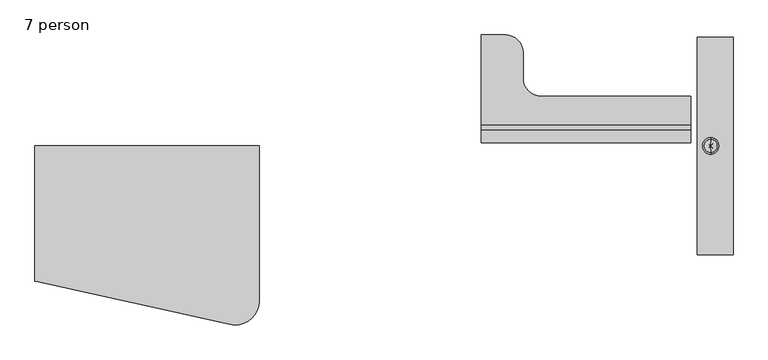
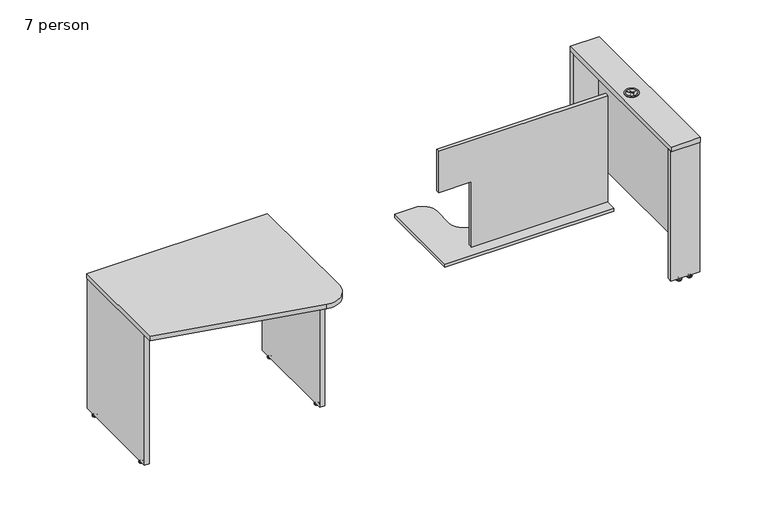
"""IFC4 building model written with IfcOpenShell, lengths in millimetres: furniture geometry, Nova Solutions - Collaboration Table - Keystone_6-7 person : 7 person."""

from ifc_helpers import new_model, si_unit, point, frame, frame_2d, origin, place, context, project, spatial, polyline, circle_curve, ellipse_curve, trimmed, segment, composite_curve, outline, extrude, source, transform, mapped, element, save
from ifc_brep_helpers import plane_surface, cylinder_surface, revolved_surface, advanced_brep


def furniture_7_person_a24fa515(model_context):
    return source(origin(), model_context, "Body", "SolidModel", [
        advanced_brep(
        [(-1411.6656506, -474.3309375, 11.1125), (-1404.988, -474.3309375, 11.1125), (-1398.3103494, -474.3309375, 11.1125), (-1411.6656506, -474.3309375, 9.525), (-1398.3103494, -474.3309375, 9.525), (-1416.8735135, -474.3309375, 4.7748687), (-1393.1024865, -474.3309375, 4.7748687), (-1417.7346506, -474.3309375, 3.989419), (-1392.2413494, -474.3309375, 3.989419), (-1417.7346506, -474.3309375, 3.175), (-1392.2413494, -474.3309375, 3.175), (-1416.8839119, -474.3309375, 0.0), (-1393.0920881, -474.3309375, 0.0), (-1404.988, -474.3309375, 0.0)],
        [
            (0, 1),
            (1, 2),
            (2, 0, circle_curve(frame((-1404.988, -474.3309375, 11.1125), z_axis=(0.0, 0.0, 1.0), x_axis=(1.0, 0.0, 0.0)), 6.6776506)),
            (0, 2, circle_curve(frame((-1404.988, -474.3309375, 11.1125), z_axis=(0.0, 0.0, 1.0), x_axis=(1.0, 0.0, 0.0)), 6.6776506)),
            (3, 0),
            (2, 4),
            (4, 3, circle_curve(frame((-1404.988, -474.3309375, 9.525), z_axis=(0.0, 0.0, 1.0), x_axis=(1.0, 0.0, 0.0)), 6.6776506)),
            (3, 4, circle_curve(frame((-1404.988, -474.3309375, 9.525), z_axis=(0.0, 0.0, 1.0), x_axis=(1.0, 0.0, 0.0)), 6.6776506)),
            (5, 3, circle_curve(frame((-1417.9200627, -474.3309375, 11.1521822), z_axis=(0.0, -1.0, 0.0), x_axis=(1.0, 0.0, 0.0)), 6.462615)),
            (4, 6, circle_curve(frame((-1392.0559373, -474.3309375, 11.1521822), z_axis=(0.0, -1.0, 0.0), x_axis=(-1.0, 0.0, 0.0)), 6.462615)),
            (6, 5, circle_curve(frame((-1404.988, -474.3309375, 4.7748687), z_axis=(0.0, 0.0, 1.0), x_axis=(1.0, 0.0, 0.0)), 11.8855135)),
            (5, 6, circle_curve(frame((-1404.988, -474.3309375, 4.7748687), z_axis=(0.0, 0.0, 1.0), x_axis=(1.0, 0.0, 0.0)), 11.8855135)),
            (7, 5, circle_curve(frame((-1416.7004632, -474.3309375, 3.7203591), z_axis=(0.0, 1.0, 0.0), x_axis=(1.0, 0.0, 0.0)), 1.0686145)),
            (6, 8, circle_curve(frame((-1393.2755368, -474.3309375, 3.7203591), z_axis=(0.0, 1.0, 0.0), x_axis=(-1.0, 0.0, 0.0)), 1.0686145)),
            (8, 7, circle_curve(frame((-1404.988, -474.3309375, 3.989419), z_axis=(0.0, 0.0, 1.0), x_axis=(1.0, 0.0, 0.0)), 12.7466506)),
            (7, 8, circle_curve(frame((-1404.988, -474.3309375, 3.989419), z_axis=(0.0, 0.0, 1.0), x_axis=(1.0, 0.0, 0.0)), 12.7466506)),
            (9, 7),
            (8, 10),
            (10, 9, circle_curve(frame((-1404.988, -474.3309375, 3.175), z_axis=(0.0, 0.0, 1.0), x_axis=(1.0, 0.0, 0.0)), 12.7466506)),
            (9, 10, circle_curve(frame((-1404.988, -474.3309375, 3.175), z_axis=(0.0, 0.0, 1.0), x_axis=(1.0, 0.0, 0.0)), 12.7466506)),
            (11, 9),
            (10, 12),
            (12, 11, circle_curve(frame((-1404.988, -474.3309375, 0.0), z_axis=(0.0, 0.0, 1.0), x_axis=(1.0, 0.0, 0.0)), 11.8959119)),
            (11, 12, circle_curve(frame((-1404.988, -474.3309375, 0.0), z_axis=(0.0, 0.0, 1.0), x_axis=(1.0, 0.0, 0.0)), 11.8959119)),
            (13, 11),
            (12, 13),
        ],
        [
            plane_surface(frame((-1404.988, -474.3309375, 11.1125), z_axis=(0.0, 0.0, 1.0), x_axis=(1.0, 0.0, 0.0))),
            cylinder_surface(frame((-1404.988, -474.3309375, 43.2095994), z_axis=(0.0, 0.0, -1.0), x_axis=(1.0, 0.0, 0.0)), 6.6776506),
            revolved_surface(trimmed(ellipse_curve(frame((-1392.0559373, -474.3309375, 11.1521822), z_axis=(0.0, -1.0, 0.0), x_axis=(-1.0, 0.0, 0.0)), 6.462615, 6.462615), [point((-1398.3103494, -474.3309375, 9.525))], [point((-1393.1024865, -474.3309375, 4.7748687))], True, "CARTESIAN"), (-1404.988, -474.3309375, 43.2095994), (0.0, 0.0, -1.0)),
            revolved_surface(trimmed(ellipse_curve(frame((-1393.2755368, -474.3309375, 3.7203591), z_axis=(0.0, 1.0, 0.0), x_axis=(-1.0, 0.0, 0.0)), 1.0686145, 1.0686145), [point((-1393.1024865, -474.3309375, 4.7748687))], [point((-1392.2413494, -474.3309375, 3.989419))], True, "CARTESIAN"), (-1404.988, -474.3309375, 43.2095994), (0.0, 0.0, -1.0)),
            cylinder_surface(frame((-1404.988, -474.3309375, 43.2095994), z_axis=(0.0, 0.0, -1.0), x_axis=(1.0, 0.0, 0.0)), 12.7466506),
            revolved_surface(polyline([(-1392.2413494, -474.3309375, 3.175), (-1393.0920881, -474.3309375, 0.0)]), (-1404.988, -474.3309375, 43.2095994), (0.0, 0.0, -1.0)),
            plane_surface(frame((-1404.988, -474.3309375, 0.0), z_axis=(0.0, 0.0, -1.0), x_axis=(1.0, 0.0, 0.0))),
        ],
        [
            (0, [[1, 2, 3]]),
            (0, [[-2, -1, 4]]),
            (1, [[5, -3, 6, 7]]),
            (1, [[-6, -4, -5, 8]]),
            (2, [[9, -7, 10, 11]]),
            (2, [[-10, -8, -9, 12]]),
            (3, [[13, -11, 14, 15]]),
            (3, [[-14, -12, -13, 16]]),
            (4, [[17, -15, 18, 19]]),
            (4, [[-18, -16, -17, 20]]),
            (5, [[21, -19, 22, 23]]),
            (5, [[-22, -20, -21, 24]]),
            (6, [[25, -23, 26]]),
            (6, [[-26, -24, -25]]),
        ],
    ),
        advanced_brep(
        [(-1411.6656506, -50.3590625, 11.1125), (-1404.988, -50.3590625, 11.1125), (-1398.3103494, -50.3590625, 11.1125), (-1411.6656506, -50.3590625, 9.525), (-1398.3103494, -50.3590625, 9.525), (-1416.8735135, -50.3590625, 4.7748687), (-1393.1024865, -50.3590625, 4.7748687), (-1417.7346506, -50.3590625, 3.989419), (-1392.2413494, -50.3590625, 3.989419), (-1417.7346506, -50.3590625, 3.175), (-1392.2413494, -50.3590625, 3.175), (-1416.8839119, -50.3590625, 0.0), (-1393.0920881, -50.3590625, 0.0), (-1404.988, -50.3590625, 0.0)],
        [
            (0, 1),
            (1, 2),
            (2, 0, circle_curve(frame((-1404.988, -50.3590625, 11.1125), z_axis=(0.0, 0.0, 1.0), x_axis=(1.0, 0.0, 0.0)), 6.6776506)),
            (0, 2, circle_curve(frame((-1404.988, -50.3590625, 11.1125), z_axis=(0.0, 0.0, 1.0), x_axis=(1.0, 0.0, 0.0)), 6.6776506)),
            (3, 0),
            (2, 4),
            (4, 3, circle_curve(frame((-1404.988, -50.3590625, 9.525), z_axis=(0.0, 0.0, 1.0), x_axis=(1.0, 0.0, 0.0)), 6.6776506)),
            (3, 4, circle_curve(frame((-1404.988, -50.3590625, 9.525), z_axis=(0.0, 0.0, 1.0), x_axis=(1.0, 0.0, 0.0)), 6.6776506)),
            (5, 3, circle_curve(frame((-1417.9200627, -50.3590625, 11.1521822), z_axis=(0.0, -1.0, 0.0), x_axis=(1.0, 0.0, 0.0)), 6.462615)),
            (4, 6, circle_curve(frame((-1392.0559373, -50.3590625, 11.1521822), z_axis=(0.0, -1.0, 0.0), x_axis=(-1.0, 0.0, 0.0)), 6.462615)),
            (6, 5, circle_curve(frame((-1404.988, -50.3590625, 4.7748687), z_axis=(0.0, 0.0, 1.0), x_axis=(1.0, 0.0, 0.0)), 11.8855135)),
            (5, 6, circle_curve(frame((-1404.988, -50.3590625, 4.7748687), z_axis=(0.0, 0.0, 1.0), x_axis=(1.0, 0.0, 0.0)), 11.8855135)),
            (7, 5, circle_curve(frame((-1416.7004632, -50.3590625, 3.7203591), z_axis=(0.0, 1.0, 0.0), x_axis=(1.0, 0.0, 0.0)), 1.0686145)),
            (6, 8, circle_curve(frame((-1393.2755368, -50.3590625, 3.7203591), z_axis=(0.0, 1.0, 0.0), x_axis=(-1.0, 0.0, 0.0)), 1.0686145)),
            (8, 7, circle_curve(frame((-1404.988, -50.3590625, 3.989419), z_axis=(0.0, 0.0, 1.0), x_axis=(1.0, 0.0, 0.0)), 12.7466506)),
            (7, 8, circle_curve(frame((-1404.988, -50.3590625, 3.989419), z_axis=(0.0, 0.0, 1.0), x_axis=(1.0, 0.0, 0.0)), 12.7466506)),
            (9, 7),
            (8, 10),
            (10, 9, circle_curve(frame((-1404.988, -50.3590625, 3.175), z_axis=(0.0, 0.0, 1.0), x_axis=(1.0, 0.0, 0.0)), 12.7466506)),
            (9, 10, circle_curve(frame((-1404.988, -50.3590625, 3.175), z_axis=(0.0, 0.0, 1.0), x_axis=(1.0, 0.0, 0.0)), 12.7466506)),
            (11, 9),
            (10, 12),
            (12, 11, circle_curve(frame((-1404.988, -50.3590625, 0.0), z_axis=(0.0, 0.0, 1.0), x_axis=(1.0, 0.0, 0.0)), 11.8959119)),
            (11, 12, circle_curve(frame((-1404.988, -50.3590625, 0.0), z_axis=(0.0, 0.0, 1.0), x_axis=(1.0, 0.0, 0.0)), 11.8959119)),
            (13, 11),
            (12, 13),
        ],
        [
            plane_surface(frame((-1404.988, -50.3590625, 11.1125), z_axis=(0.0, 0.0, 1.0), x_axis=(1.0, 0.0, 0.0))),
            cylinder_surface(frame((-1404.988, -50.3590625, 43.2095994), z_axis=(0.0, 0.0, -1.0), x_axis=(1.0, 0.0, 0.0)), 6.6776506),
            revolved_surface(trimmed(ellipse_curve(frame((-1392.0559373, -50.3590625, 11.1521822), z_axis=(0.0, -1.0, 0.0), x_axis=(-1.0, 0.0, 0.0)), 6.462615, 6.462615), [point((-1398.3103494, -50.3590625, 9.525))], [point((-1393.1024865, -50.3590625, 4.7748687))], True, "CARTESIAN"), (-1404.988, -50.3590625, 43.2095994), (0.0, 0.0, -1.0)),
            revolved_surface(trimmed(ellipse_curve(frame((-1393.2755368, -50.3590625, 3.7203591), z_axis=(0.0, 1.0, 0.0), x_axis=(-1.0, 0.0, 0.0)), 1.0686145, 1.0686145), [point((-1393.1024865, -50.3590625, 4.7748687))], [point((-1392.2413494, -50.3590625, 3.989419))], True, "CARTESIAN"), (-1404.988, -50.3590625, 43.2095994), (0.0, 0.0, -1.0)),
            cylinder_surface(frame((-1404.988, -50.3590625, 43.2095994), z_axis=(0.0, 0.0, -1.0), x_axis=(1.0, 0.0, 0.0)), 12.7466506),
            revolved_surface(polyline([(-1392.2413494, -50.3590625, 3.175), (-1393.0920881, -50.3590625, 0.0)]), (-1404.988, -50.3590625, 43.2095994), (0.0, 0.0, -1.0)),
            plane_surface(frame((-1404.988, -50.3590625, 0.0), z_axis=(0.0, 0.0, -1.0), x_axis=(1.0, 0.0, 0.0))),
        ],
        [
            (0, [[1, 2, 3]]),
            (0, [[-2, -1, 4]]),
            (1, [[5, -3, 6, 7]]),
            (1, [[-6, -4, -5, 8]]),
            (2, [[9, -7, 10, 11]]),
            (2, [[-10, -8, -9, 12]]),
            (3, [[13, -11, 14, 15]]),
            (3, [[-14, -12, -13, 16]]),
            (4, [[17, -15, 18, 19]]),
            (4, [[-18, -16, -17, 20]]),
            (5, [[21, -19, 22, 23]]),
            (5, [[-22, -20, -21, 24]]),
            (6, [[25, -23, 26]]),
            (6, [[-26, -24, -25]]),
        ],
    ),
        extrude(outline(polyline([(-1417.838, -1.345), (-1392.138, -1.345), (-1392.138, -523.345), (-1417.838, -523.345), (-1417.838, -1.345)])), frame((0.0, 0.0, 15.6), z_axis=(0.0, 0.0, 1.0), x_axis=(1.0, 0.0, 0.0)), (0.0, 0.0, 1.0), 720.7),
        advanced_brep(
        [(-478.3103494, -474.3309375, 11.1125), (-491.6656506, -474.3309375, 11.1125), (-484.988, -474.3309375, 11.1125), (-478.3103494, -474.3309375, 9.525), (-491.6656506, -474.3309375, 9.525), (-473.1024865, -474.3309375, 4.7748687), (-496.8735135, -474.3309375, 4.7748687), (-472.2413494, -474.3309375, 3.989419), (-497.7346506, -474.3309375, 3.989419), (-472.2413494, -474.3309375, 3.175), (-497.7346506, -474.3309375, 3.175), (-473.0920881, -474.3309375, 0.0), (-496.8839119, -474.3309375, 0.0), (-484.988, -474.3309375, 0.0)],
        [
            (0, 1, circle_curve(frame((-484.988, -474.3309375, 11.1125), z_axis=(0.0, 0.0, 1.0), x_axis=(-1.0, 0.0, 0.0)), 6.6776506)),
            (1, 2),
            (2, 0),
            (1, 0, circle_curve(frame((-484.988, -474.3309375, 11.1125), z_axis=(0.0, 0.0, 1.0), x_axis=(-1.0, 0.0, 0.0)), 6.6776506)),
            (3, 4, circle_curve(frame((-484.988, -474.3309375, 9.525), z_axis=(0.0, 0.0, 1.0), x_axis=(-1.0, 0.0, 0.0)), 6.6776506)),
            (4, 1),
            (0, 3),
            (4, 3, circle_curve(frame((-484.988, -474.3309375, 9.525), z_axis=(0.0, 0.0, 1.0), x_axis=(-1.0, 0.0, 0.0)), 6.6776506)),
            (5, 6, circle_curve(frame((-484.988, -474.3309375, 4.7748687), z_axis=(0.0, 0.0, 1.0), x_axis=(-1.0, 0.0, 0.0)), 11.8855135)),
            (6, 4, circle_curve(frame((-497.9200627, -474.3309375, 11.1521822), z_axis=(0.0, -1.0, 0.0), x_axis=(1.0, 0.0, 0.0)), 6.462615)),
            (3, 5, circle_curve(frame((-472.0559373, -474.3309375, 11.1521822), z_axis=(0.0, -1.0, 0.0), x_axis=(-1.0, 0.0, 0.0)), 6.462615)),
            (6, 5, circle_curve(frame((-484.988, -474.3309375, 4.7748687), z_axis=(0.0, 0.0, 1.0), x_axis=(-1.0, 0.0, 0.0)), 11.8855135)),
            (7, 8, circle_curve(frame((-484.988, -474.3309375, 3.989419), z_axis=(0.0, 0.0, 1.0), x_axis=(-1.0, 0.0, 0.0)), 12.7466506)),
            (8, 6, circle_curve(frame((-496.7004632, -474.3309375, 3.7203591), z_axis=(0.0, 1.0, 0.0), x_axis=(1.0, 0.0, 0.0)), 1.0686145)),
            (5, 7, circle_curve(frame((-473.2755368, -474.3309375, 3.7203591), z_axis=(0.0, 1.0, 0.0), x_axis=(-1.0, 0.0, 0.0)), 1.0686145)),
            (8, 7, circle_curve(frame((-484.988, -474.3309375, 3.989419), z_axis=(0.0, 0.0, 1.0), x_axis=(-1.0, 0.0, 0.0)), 12.7466506)),
            (9, 10, circle_curve(frame((-484.988, -474.3309375, 3.175), z_axis=(0.0, 0.0, 1.0), x_axis=(-1.0, 0.0, 0.0)), 12.7466506)),
            (10, 8),
            (7, 9),
            (10, 9, circle_curve(frame((-484.988, -474.3309375, 3.175), z_axis=(0.0, 0.0, 1.0), x_axis=(-1.0, 0.0, 0.0)), 12.7466506)),
            (11, 12, circle_curve(frame((-484.988, -474.3309375, 0.0), z_axis=(0.0, 0.0, 1.0), x_axis=(-1.0, 0.0, 0.0)), 11.8959119)),
            (12, 10),
            (9, 11),
            (12, 11, circle_curve(frame((-484.988, -474.3309375, 0.0), z_axis=(0.0, 0.0, 1.0), x_axis=(-1.0, 0.0, 0.0)), 11.8959119)),
            (13, 12),
            (11, 13),
        ],
        [
            plane_surface(frame((-484.988, -474.3309375, 11.1125), z_axis=(0.0, 0.0, 1.0), x_axis=(-1.0, 0.0, 0.0))),
            cylinder_surface(frame((-484.988, -474.3309375, 43.2095994), z_axis=(0.0, 0.0, -1.0), x_axis=(-1.0, 0.0, 0.0)), 6.6776506),
            revolved_surface(trimmed(ellipse_curve(frame((-497.9200627, -474.3309375, 11.1521822), z_axis=(0.0, 1.0, 0.0), x_axis=(1.0, 0.0, 0.0)), 6.462615, 6.462615), [point((-491.6656506, -474.3309375, 9.525))], [point((-496.8735135, -474.3309375, 4.7748687))], True, "CARTESIAN"), (-484.988, -474.3309375, 43.2095994), (0.0, 0.0, -1.0)),
            revolved_surface(trimmed(ellipse_curve(frame((-496.7004632, -474.3309375, 3.7203591), z_axis=(0.0, -1.0, 0.0), x_axis=(1.0, 0.0, 0.0)), 1.0686145, 1.0686145), [point((-496.8735135, -474.3309375, 4.7748687))], [point((-497.7346506, -474.3309375, 3.989419))], True, "CARTESIAN"), (-484.988, -474.3309375, 43.2095994), (0.0, 0.0, -1.0)),
            cylinder_surface(frame((-484.988, -474.3309375, 43.2095994), z_axis=(0.0, 0.0, -1.0), x_axis=(-1.0, 0.0, 0.0)), 12.7466506),
            revolved_surface(polyline([(-497.7346506, -474.3309375, 3.175), (-496.8839119, -474.3309375, 0.0)]), (-484.988, -474.3309375, 43.2095994), (0.0, 0.0, -1.0)),
            plane_surface(frame((-484.988, -474.3309375, 0.0), z_axis=(0.0, 0.0, -1.0), x_axis=(-1.0, 0.0, 0.0))),
        ],
        [
            (0, [[1, 2, 3]]),
            (0, [[4, -3, -2]]),
            (1, [[5, 6, -1, 7]]),
            (1, [[8, -7, -4, -6]]),
            (2, [[9, 10, -5, 11]]),
            (2, [[12, -11, -8, -10]]),
            (3, [[13, 14, -9, 15]]),
            (3, [[16, -15, -12, -14]]),
            (4, [[17, 18, -13, 19]]),
            (4, [[20, -19, -16, -18]]),
            (5, [[21, 22, -17, 23]]),
            (5, [[24, -23, -20, -22]]),
            (6, [[25, -21, 26]]),
            (6, [[-26, -24, -25]]),
        ],
    ),
        advanced_brep(
        [(-478.3103494, -50.3590625, 11.1125), (-491.6656506, -50.3590625, 11.1125), (-484.988, -50.3590625, 11.1125), (-478.3103494, -50.3590625, 9.525), (-491.6656506, -50.3590625, 9.525), (-473.1024865, -50.3590625, 4.7748687), (-496.8735135, -50.3590625, 4.7748687), (-472.2413494, -50.3590625, 3.989419), (-497.7346506, -50.3590625, 3.989419), (-472.2413494, -50.3590625, 3.175), (-497.7346506, -50.3590625, 3.175), (-473.0920881, -50.3590625, 0.0), (-496.8839119, -50.3590625, 0.0), (-484.988, -50.3590625, 0.0)],
        [
            (0, 1, circle_curve(frame((-484.988, -50.3590625, 11.1125), z_axis=(0.0, 0.0, 1.0), x_axis=(-1.0, 0.0, 0.0)), 6.6776506)),
            (1, 2),
            (2, 0),
            (1, 0, circle_curve(frame((-484.988, -50.3590625, 11.1125), z_axis=(0.0, 0.0, 1.0), x_axis=(-1.0, 0.0, 0.0)), 6.6776506)),
            (3, 4, circle_curve(frame((-484.988, -50.3590625, 9.525), z_axis=(0.0, 0.0, 1.0), x_axis=(-1.0, 0.0, 0.0)), 6.6776506)),
            (4, 1),
            (0, 3),
            (4, 3, circle_curve(frame((-484.988, -50.3590625, 9.525), z_axis=(0.0, 0.0, 1.0), x_axis=(-1.0, 0.0, 0.0)), 6.6776506)),
            (5, 6, circle_curve(frame((-484.988, -50.3590625, 4.7748687), z_axis=(0.0, 0.0, 1.0), x_axis=(-1.0, 0.0, 0.0)), 11.8855135)),
            (6, 4, circle_curve(frame((-497.9200627, -50.3590625, 11.1521822), z_axis=(0.0, -1.0, 0.0), x_axis=(1.0, 0.0, 0.0)), 6.462615)),
            (3, 5, circle_curve(frame((-472.0559373, -50.3590625, 11.1521822), z_axis=(0.0, -1.0, 0.0), x_axis=(-1.0, 0.0, 0.0)), 6.462615)),
            (6, 5, circle_curve(frame((-484.988, -50.3590625, 4.7748687), z_axis=(0.0, 0.0, 1.0), x_axis=(-1.0, 0.0, 0.0)), 11.8855135)),
            (7, 8, circle_curve(frame((-484.988, -50.3590625, 3.989419), z_axis=(0.0, 0.0, 1.0), x_axis=(-1.0, 0.0, 0.0)), 12.7466506)),
            (8, 6, circle_curve(frame((-496.7004632, -50.3590625, 3.7203591), z_axis=(0.0, 1.0, 0.0), x_axis=(1.0, 0.0, 0.0)), 1.0686145)),
            (5, 7, circle_curve(frame((-473.2755368, -50.3590625, 3.7203591), z_axis=(0.0, 1.0, 0.0), x_axis=(-1.0, 0.0, 0.0)), 1.0686145)),
            (8, 7, circle_curve(frame((-484.988, -50.3590625, 3.989419), z_axis=(0.0, 0.0, 1.0), x_axis=(-1.0, 0.0, 0.0)), 12.7466506)),
            (9, 10, circle_curve(frame((-484.988, -50.3590625, 3.175), z_axis=(0.0, 0.0, 1.0), x_axis=(-1.0, 0.0, 0.0)), 12.7466506)),
            (10, 8),
            (7, 9),
            (10, 9, circle_curve(frame((-484.988, -50.3590625, 3.175), z_axis=(0.0, 0.0, 1.0), x_axis=(-1.0, 0.0, 0.0)), 12.7466506)),
            (11, 12, circle_curve(frame((-484.988, -50.3590625, 0.0), z_axis=(0.0, 0.0, 1.0), x_axis=(-1.0, 0.0, 0.0)), 11.8959119)),
            (12, 10),
            (9, 11),
            (12, 11, circle_curve(frame((-484.988, -50.3590625, 0.0), z_axis=(0.0, 0.0, 1.0), x_axis=(-1.0, 0.0, 0.0)), 11.8959119)),
            (13, 12),
            (11, 13),
        ],
        [
            plane_surface(frame((-484.988, -50.3590625, 11.1125), z_axis=(0.0, 0.0, 1.0), x_axis=(-1.0, 0.0, 0.0))),
            cylinder_surface(frame((-484.988, -50.3590625, 43.2095994), z_axis=(0.0, 0.0, -1.0), x_axis=(-1.0, 0.0, 0.0)), 6.6776506),
            revolved_surface(trimmed(ellipse_curve(frame((-497.9200627, -50.3590625, 11.1521822), z_axis=(0.0, 1.0, 0.0), x_axis=(1.0, 0.0, 0.0)), 6.462615, 6.462615), [point((-491.6656506, -50.3590625, 9.525))], [point((-496.8735135, -50.3590625, 4.7748687))], True, "CARTESIAN"), (-484.988, -50.3590625, 43.2095994), (0.0, 0.0, -1.0)),
            revolved_surface(trimmed(ellipse_curve(frame((-496.7004632, -50.3590625, 3.7203591), z_axis=(0.0, -1.0, 0.0), x_axis=(1.0, 0.0, 0.0)), 1.0686145, 1.0686145), [point((-496.8735135, -50.3590625, 4.7748687))], [point((-497.7346506, -50.3590625, 3.989419))], True, "CARTESIAN"), (-484.988, -50.3590625, 43.2095994), (0.0, 0.0, -1.0)),
            cylinder_surface(frame((-484.988, -50.3590625, 43.2095994), z_axis=(0.0, 0.0, -1.0), x_axis=(-1.0, 0.0, 0.0)), 12.7466506),
            revolved_surface(polyline([(-497.7346506, -50.3590625, 3.175), (-496.8839119, -50.3590625, 0.0)]), (-484.988, -50.3590625, 43.2095994), (0.0, 0.0, -1.0)),
            plane_surface(frame((-484.988, -50.3590625, 0.0), z_axis=(0.0, 0.0, -1.0), x_axis=(-1.0, 0.0, 0.0))),
        ],
        [
            (0, [[1, 2, 3]]),
            (0, [[4, -3, -2]]),
            (1, [[5, 6, -1, 7]]),
            (1, [[8, -7, -4, -6]]),
            (2, [[9, 10, -5, 11]]),
            (2, [[12, -11, -8, -10]]),
            (3, [[13, 14, -9, 15]]),
            (3, [[16, -15, -12, -14]]),
            (4, [[17, 18, -13, 19]]),
            (4, [[20, -19, -16, -18]]),
            (5, [[21, 22, -17, 23]]),
            (5, [[24, -23, -20, -22]]),
            (6, [[25, -21, 26]]),
            (6, [[-26, -24, -25]]),
        ],
    ),
        extrude(outline(polyline([(-472.138, -1.345), (-472.138, -523.345), (-497.838, -523.345), (-497.838, -1.345), (-472.138, -1.345)])), frame((0.0, 0.0, 15.6), z_axis=(0.0, 0.0, 1.0), x_axis=(1.0, 0.0, 0.0)), (0.0, 0.0, 1.0), 720.7),
        extrude(outline(composite_curve([segment(trimmed(circle_curve(frame_2d((-1393.949, -474.3539957)), 101.5), [point((-1415.9176208, -573.4480404))], [point((-1419.238, -572.6531131))], False, "CARTESIAN"), True, "CONTINUOUS"), segment(polyline([(-1419.238, -572.6531131), (-1419.238, 0.0), (-470.738, 0.0), (-470.738, -656.5229386)]), True, "CONTINUOUS"), segment(trimmed(circle_curve(frame_2d((-572.238, -656.5229386)), 101.5), [point((-470.738, -656.5229386))], [point((-594.2066208, -755.6169834))], False, "CARTESIAN"), True, "CONTINUOUS"), segment(polyline([(-594.2066208, -755.6169834), (-1415.9176208, -573.4480404)]), True, "CONTINUOUS")], self_intersect=False)), frame((0.0, 0.0, 736.3), z_axis=(0.0, 0.0, 1.0), x_axis=(1.0, 0.0, 0.0)), (0.0, 0.0, 1.0), 25.7),
        advanced_brep(
        [(1440.9, -34.925, 762.0), (1440.9, 34.925, 762.0), (1440.9, 24.6435157, 762.0), (1439.753542, 2.7677944, 762.0), (1423.4744029, 17.4255971, 762.0), (1438.1322056, 1.146458, 762.0), (1416.2564843, 0.0, 762.0), (1438.1322056, -1.146458, 762.0), (1423.4744029, -17.4255971, 762.0), (1439.753542, -2.7677944, 762.0), (1440.9, -24.6435157, 762.0), (1442.046458, -2.7677944, 762.0), (1458.3255971, -17.4255971, 762.0), (1443.6677944, -1.146458, 762.0), (1465.5435157, 0.0, 762.0), (1443.6677944, 1.146458, 762.0), (1458.3255971, 17.4255971, 762.0), (1442.046458, 2.7677944, 762.0), (1440.9, -34.925, 763.3787817), (1440.9, 34.925, 763.3787817), (1440.9, -28.7119174, 765.175), (1440.9, 28.7119174, 765.175), (1440.9, -24.6435157, 765.175), (1439.753542, -2.7677944, 765.175), (1423.4744029, -17.4255971, 765.175), (1438.1322056, -1.146458, 765.175), (1416.2564843, 0.0, 765.175), (1438.1322056, 1.146458, 765.175), (1423.4744029, 17.4255971, 765.175), (1439.753542, 2.7677944, 765.175), (1440.9, 24.6435157, 765.175), (1442.046458, 2.7677944, 765.175), (1458.3255971, 17.4255971, 765.175), (1443.6677944, 1.146458, 765.175), (1465.5435157, 0.0, 765.175), (1443.6677944, -1.146458, 765.175), (1458.3255971, -17.4255971, 765.175), (1442.046458, -2.7677944, 765.175)],
        [
            (0, 1, circle_curve(frame((1440.9, 0.0, 762.0), z_axis=(0.0, 0.0, -1.0), x_axis=(0.0, 1.0, 0.0)), 34.925)),
            (1, 2),
            (2, 3),
            (3, 4),
            (4, 5),
            (5, 6),
            (6, 7),
            (7, 8),
            (8, 9),
            (9, 10),
            (10, 0),
            (1, 0, circle_curve(frame((1440.9, 0.0, 762.0), z_axis=(0.0, 0.0, -1.0), x_axis=(0.0, 1.0, 0.0)), 34.925)),
            (10, 11),
            (11, 12),
            (12, 13),
            (13, 14),
            (14, 15),
            (15, 16),
            (16, 17),
            (17, 2),
            (0, 18),
            (18, 19, circle_curve(frame((1440.9, 0.0, 763.3787817), z_axis=(0.0, 0.0, -1.0), x_axis=(0.0, 1.0, 0.0)), 34.925)),
            (19, 1),
            (19, 18, circle_curve(frame((1440.9, 0.0, 763.3787817), z_axis=(0.0, 0.0, -1.0), x_axis=(0.0, 1.0, 0.0)), 34.925)),
            (18, 20, circle_curve(frame((1440.9, -31.558813, 763.3787817), z_axis=(-1.0, 0.0, 0.0), x_axis=(0.0, -1.0, 0.0)), 3.366187)),
            (20, 21, circle_curve(frame((1440.9, 0.0, 765.175), z_axis=(0.0, 0.0, -1.0), x_axis=(0.0, 1.0, 0.0)), 28.7119174)),
            (21, 19, circle_curve(frame((1440.9, 31.558813, 763.3787817), z_axis=(-1.0, 0.0, 0.0), x_axis=(0.0, 1.0, 0.0)), 3.366187)),
            (21, 20, circle_curve(frame((1440.9, 0.0, 765.175), z_axis=(0.0, 0.0, -1.0), x_axis=(0.0, 1.0, 0.0)), 28.7119174)),
            (20, 22),
            (22, 23),
            (23, 24),
            (24, 25),
            (25, 26),
            (26, 27),
            (27, 28),
            (28, 29),
            (29, 30),
            (30, 21),
            (30, 31),
            (31, 32),
            (32, 33),
            (33, 34),
            (34, 35),
            (35, 36),
            (36, 37),
            (37, 22),
            (26, 6),
            (5, 27),
            (25, 7),
            (24, 8),
            (23, 9),
            (22, 10),
            (37, 11),
            (36, 12),
            (35, 13),
            (34, 14),
            (33, 15),
            (32, 16),
            (31, 17),
            (30, 2),
            (29, 3),
            (28, 4),
        ],
        [
            plane_surface(frame((1440.9, 0.0, 762.0), z_axis=(0.0, 0.0, -1.0), x_axis=(0.0, 1.0, 0.0))),
            cylinder_surface(frame((1440.9, 0.0, 850.9), z_axis=(0.0, 0.0, 1.0), x_axis=(0.0, 1.0, 0.0)), 34.925),
            revolved_surface(trimmed(ellipse_curve(frame((1440.9, 31.558813, 763.3787817), z_axis=(1.0, 0.0, 0.0), x_axis=(0.0, 1.0, 0.0)), 3.366187, 3.366187), [point((1440.9, 34.925, 763.3787817))], [point((1440.9, 28.7119174, 765.175))], True, "CARTESIAN"), (1440.9, 0.0, 850.9), (0.0, 0.0, 1.0)),
            plane_surface(frame((1440.9, 0.0, 765.175), z_axis=(0.0, 0.0, 1.0), x_axis=(0.0, 1.0, 0.0))),
            plane_surface(frame((1440.9, 1.2915119, 787.4), z_axis=(0.05233595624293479, -0.9986295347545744, 0.0), x_axis=(0.0, 0.0, -1.0))),
            plane_surface(frame((1416.2564843, 0.0, 787.4), z_axis=(0.052335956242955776, 0.9986295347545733, 0.0), x_axis=(0.0, 0.0, -1.0))),
            plane_surface(frame((1439.9867632, 0.9132368, 787.4), z_axis=(0.7431448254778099, -0.6691306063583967, 0.0), x_axis=(0.0, 0.0, -1.0))),
            plane_surface(frame((1423.4744029, -17.4255971, 787.4), z_axis=(-0.6691306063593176, 0.7431448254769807, 0.0), x_axis=(0.0, 0.0, -1.0))),
            plane_surface(frame((1439.6084881, 0.0, 787.4), z_axis=(0.9986295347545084, 0.05233595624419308, 0.0), x_axis=(0.0, 0.0, -1.0))),
            plane_surface(frame((1440.9, -24.6435157, 787.4), z_axis=(-0.9986295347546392, 0.05233595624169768, 0.0), x_axis=(0.0, 0.0, -1.0))),
            plane_surface(frame((1439.9867632, -0.9132368, 787.4), z_axis=(0.6691306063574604, 0.743144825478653, 0.0), x_axis=(0.0, 0.0, -1.0))),
            plane_surface(frame((1458.3255971, -17.4255971, 787.4), z_axis=(-0.7431448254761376, -0.669130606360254, 0.0), x_axis=(0.0, 0.0, -1.0))),
            plane_surface(frame((1440.9, -1.2915119, 787.4), z_axis=(-0.052335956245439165, 0.9986295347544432, 0.0), x_axis=(0.0, 0.0, -1.0))),
            plane_surface(frame((1465.5435157, 0.0, 787.4), z_axis=(-0.05233595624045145, -0.9986295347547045, 0.0), x_axis=(0.0, 0.0, -1.0))),
            plane_surface(frame((1441.8132368, -0.9132368, 787.4), z_axis=(-0.7431448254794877, 0.6691306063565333, 0.0), x_axis=(0.0, 0.0, -1.0))),
            plane_surface(frame((1458.3255971, 17.4255971, 787.4), z_axis=(0.669130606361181, -0.7431448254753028, 0.0), x_axis=(0.0, 0.0, -1.0))),
            plane_surface(frame((1442.1915119, 0.0, 787.4), z_axis=(-0.9986295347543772, -0.05233595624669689, 0.0), x_axis=(0.0, 0.0, -1.0))),
            plane_surface(frame((1440.9, 24.6435157, 787.4), z_axis=(0.9986295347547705, -0.05233595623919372, 0.0), x_axis=(0.0, 0.0, -1.0))),
            plane_surface(frame((1441.8132368, 0.9132368, 787.4), z_axis=(-0.6691306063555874, -0.7431448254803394, 0.0), x_axis=(0.0, 0.0, -1.0))),
            plane_surface(frame((1423.4744029, 17.4255971, 787.4), z_axis=(0.743144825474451, 0.669130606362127, 0.0), x_axis=(0.0, 0.0, -1.0))),
        ],
        [
            (0, [[1, 2, 3, 4, 5, 6, 7, 8, 9, 10, 11]]),
            (0, [[12, -11, 13, 14, 15, 16, 17, 18, 19, 20, -2]]),
            (1, [[-1, 21, 22, 23]]),
            (1, [[-12, -23, 24, -21]]),
            (2, [[-22, 25, 26, 27]]),
            (2, [[-24, -27, 28, -25]]),
            (3, [[-26, 29, 30, 31, 32, 33, 34, 35, 36, 37, 38]]),
            (3, [[-28, -38, 39, 40, 41, 42, 43, 44, 45, 46, -29]]),
            (4, [[47, -6, 48, -34]]),
            (5, [[-47, -33, 49, -7]]),
            (6, [[50, -8, -49, -32]]),
            (7, [[-50, -31, 51, -9]]),
            (8, [[52, -10, -51, -30]]),
            (9, [[-52, -46, 53, -13]]),
            (10, [[54, -14, -53, -45]]),
            (11, [[-54, -44, 55, -15]]),
            (12, [[56, -16, -55, -43]]),
            (13, [[-56, -42, 57, -17]]),
            (14, [[58, -18, -57, -41]]),
            (15, [[-58, -40, 59, -19]]),
            (16, [[60, -20, -59, -39]]),
            (17, [[-60, -37, 61, -3]]),
            (18, [[62, -4, -61, -36]]),
            (19, [[-62, -35, -48, -5]]),
        ],
    ),
        advanced_brep(
        [(1486.8859375, 451.0276506, 11.1125), (1486.8859375, 437.6723494, 11.1125), (1486.8859375, 444.35, 11.1125), (1486.8859375, 451.0276506, 9.525), (1486.8859375, 437.6723494, 9.525), (1486.8859375, 456.2355135, 4.7748687), (1486.8859375, 432.4644865, 4.7748687), (1486.8859375, 457.0966506, 3.989419), (1486.8859375, 431.6033494, 3.989419), (1486.8859375, 457.0966506, 3.175), (1486.8859375, 431.6033494, 3.175), (1486.8859375, 456.2459119, 0.0), (1486.8859375, 432.4540881, 0.0), (1486.8859375, 444.35, 0.0)],
        [
            (0, 1, circle_curve(frame((1486.8859375, 444.35, 11.1125), z_axis=(0.0, 0.0, 1.0), x_axis=(0.0, -1.0, 0.0)), 6.6776506)),
            (1, 2),
            (2, 0),
            (1, 0, circle_curve(frame((1486.8859375, 444.35, 11.1125), z_axis=(0.0, 0.0, 1.0), x_axis=(0.0, -1.0, 0.0)), 6.6776506)),
            (3, 4, circle_curve(frame((1486.8859375, 444.35, 9.525), z_axis=(0.0, 0.0, 1.0), x_axis=(0.0, -1.0, 0.0)), 6.6776506)),
            (4, 1),
            (0, 3),
            (4, 3, circle_curve(frame((1486.8859375, 444.35, 9.525), z_axis=(0.0, 0.0, 1.0), x_axis=(0.0, -1.0, 0.0)), 6.6776506)),
            (5, 6, circle_curve(frame((1486.8859375, 444.35, 4.7748687), z_axis=(0.0, 0.0, 1.0), x_axis=(0.0, -1.0, 0.0)), 11.8855135)),
            (6, 4, circle_curve(frame((1486.8859375, 431.4179373, 11.1521822), z_axis=(1.0, 0.0, 0.0), x_axis=(0.0, 1.0, 0.0)), 6.462615)),
            (3, 5, circle_curve(frame((1486.8859375, 457.2820627, 11.1521822), z_axis=(1.0, 0.0, 0.0), x_axis=(0.0, -1.0, 0.0)), 6.462615)),
            (6, 5, circle_curve(frame((1486.8859375, 444.35, 4.7748687), z_axis=(0.0, 0.0, 1.0), x_axis=(0.0, -1.0, 0.0)), 11.8855135)),
            (7, 8, circle_curve(frame((1486.8859375, 444.35, 3.989419), z_axis=(0.0, 0.0, 1.0), x_axis=(0.0, -1.0, 0.0)), 12.7466506)),
            (8, 6, circle_curve(frame((1486.8859375, 432.6375368, 3.7203591), z_axis=(-1.0, 0.0, 0.0), x_axis=(0.0, 1.0, 0.0)), 1.0686145)),
            (5, 7, circle_curve(frame((1486.8859375, 456.0624632, 3.7203591), z_axis=(-1.0, 0.0, 0.0), x_axis=(0.0, -1.0, 0.0)), 1.0686145)),
            (8, 7, circle_curve(frame((1486.8859375, 444.35, 3.989419), z_axis=(0.0, 0.0, 1.0), x_axis=(0.0, -1.0, 0.0)), 12.7466506)),
            (9, 10, circle_curve(frame((1486.8859375, 444.35, 3.175), z_axis=(0.0, 0.0, 1.0), x_axis=(0.0, -1.0, 0.0)), 12.7466506)),
            (10, 8),
            (7, 9),
            (10, 9, circle_curve(frame((1486.8859375, 444.35, 3.175), z_axis=(0.0, 0.0, 1.0), x_axis=(0.0, -1.0, 0.0)), 12.7466506)),
            (11, 12, circle_curve(frame((1486.8859375, 444.35, 0.0), z_axis=(0.0, 0.0, 1.0), x_axis=(0.0, -1.0, 0.0)), 11.8959119)),
            (12, 10),
            (9, 11),
            (12, 11, circle_curve(frame((1486.8859375, 444.35, 0.0), z_axis=(0.0, 0.0, 1.0), x_axis=(0.0, -1.0, 0.0)), 11.8959119)),
            (13, 12),
            (11, 13),
        ],
        [
            plane_surface(frame((1486.8859375, 444.35, 11.1125), z_axis=(0.0, 0.0, 1.0), x_axis=(0.0, -1.0, 0.0))),
            cylinder_surface(frame((1486.8859375, 444.35, 43.2095994), z_axis=(0.0, 0.0, -1.0), x_axis=(0.0, -1.0, 0.0)), 6.6776506),
            revolved_surface(trimmed(ellipse_curve(frame((1486.8859375, 431.4179373, 11.1521822), z_axis=(-1.0, 0.0, 0.0), x_axis=(0.0, 1.0, 0.0)), 6.462615, 6.462615), [point((1486.8859375, 437.6723494, 9.525))], [point((1486.8859375, 432.4644865, 4.7748687))], True, "CARTESIAN"), (1486.8859375, 444.35, 43.2095994), (0.0, 0.0, -1.0)),
            revolved_surface(trimmed(ellipse_curve(frame((1486.8859375, 432.6375368, 3.7203591), z_axis=(1.0, 0.0, 0.0), x_axis=(0.0, 1.0, 0.0)), 1.0686145, 1.0686145), [point((1486.8859375, 432.4644865, 4.7748687))], [point((1486.8859375, 431.6033494, 3.989419))], True, "CARTESIAN"), (1486.8859375, 444.35, 43.2095994), (0.0, 0.0, -1.0)),
            cylinder_surface(frame((1486.8859375, 444.35, 43.2095994), z_axis=(0.0, 0.0, -1.0), x_axis=(0.0, -1.0, 0.0)), 12.7466506),
            revolved_surface(polyline([(1486.8859375, 431.6033494, 3.175), (1486.8859375, 432.4540881, 0.0)]), (1486.8859375, 444.35, 43.2095994), (0.0, 0.0, -1.0)),
            plane_surface(frame((1486.8859375, 444.35, 0.0), z_axis=(0.0, 0.0, -1.0), x_axis=(0.0, -1.0, 0.0))),
        ],
        [
            (0, [[1, 2, 3]]),
            (0, [[4, -3, -2]]),
            (1, [[5, 6, -1, 7]]),
            (1, [[8, -7, -4, -6]]),
            (2, [[9, 10, -5, 11]]),
            (2, [[12, -11, -8, -10]]),
            (3, [[13, 14, -9, 15]]),
            (3, [[16, -15, -12, -14]]),
            (4, [[17, 18, -13, 19]]),
            (4, [[20, -19, -16, -18]]),
            (5, [[21, 22, -17, 23]]),
            (5, [[24, -23, -20, -22]]),
            (6, [[25, -21, 26]]),
            (6, [[-26, -24, -25]]),
        ],
    ),
        advanced_brep(
        [(1432.5140625, 451.0276506, 11.1125), (1432.5140625, 437.6723494, 11.1125), (1432.5140625, 444.35, 11.1125), (1432.5140625, 451.0276506, 9.525), (1432.5140625, 437.6723494, 9.525), (1432.5140625, 456.2355135, 4.7748687), (1432.5140625, 432.4644865, 4.7748687), (1432.5140625, 457.0966506, 3.989419), (1432.5140625, 431.6033494, 3.989419), (1432.5140625, 457.0966506, 3.175), (1432.5140625, 431.6033494, 3.175), (1432.5140625, 456.2459119, 0.0), (1432.5140625, 432.4540881, 0.0), (1432.5140625, 444.35, 0.0)],
        [
            (0, 1, circle_curve(frame((1432.5140625, 444.35, 11.1125), z_axis=(0.0, 0.0, 1.0), x_axis=(0.0, -1.0, 0.0)), 6.6776506)),
            (1, 2),
            (2, 0),
            (1, 0, circle_curve(frame((1432.5140625, 444.35, 11.1125), z_axis=(0.0, 0.0, 1.0), x_axis=(0.0, -1.0, 0.0)), 6.6776506)),
            (3, 4, circle_curve(frame((1432.5140625, 444.35, 9.525), z_axis=(0.0, 0.0, 1.0), x_axis=(0.0, -1.0, 0.0)), 6.6776506)),
            (4, 1),
            (0, 3),
            (4, 3, circle_curve(frame((1432.5140625, 444.35, 9.525), z_axis=(0.0, 0.0, 1.0), x_axis=(0.0, -1.0, 0.0)), 6.6776506)),
            (5, 6, circle_curve(frame((1432.5140625, 444.35, 4.7748687), z_axis=(0.0, 0.0, 1.0), x_axis=(0.0, -1.0, 0.0)), 11.8855135)),
            (6, 4, circle_curve(frame((1432.5140625, 431.4179373, 11.1521822), z_axis=(1.0, 0.0, 0.0), x_axis=(0.0, 1.0, 0.0)), 6.462615)),
            (3, 5, circle_curve(frame((1432.5140625, 457.2820627, 11.1521822), z_axis=(1.0, 0.0, 0.0), x_axis=(0.0, -1.0, 0.0)), 6.462615)),
            (6, 5, circle_curve(frame((1432.5140625, 444.35, 4.7748687), z_axis=(0.0, 0.0, 1.0), x_axis=(0.0, -1.0, 0.0)), 11.8855135)),
            (7, 8, circle_curve(frame((1432.5140625, 444.35, 3.989419), z_axis=(0.0, 0.0, 1.0), x_axis=(0.0, -1.0, 0.0)), 12.7466506)),
            (8, 6, circle_curve(frame((1432.5140625, 432.6375368, 3.7203591), z_axis=(-1.0, 0.0, 0.0), x_axis=(0.0, 1.0, 0.0)), 1.0686145)),
            (5, 7, circle_curve(frame((1432.5140625, 456.0624632, 3.7203591), z_axis=(-1.0, 0.0, 0.0), x_axis=(0.0, -1.0, 0.0)), 1.0686145)),
            (8, 7, circle_curve(frame((1432.5140625, 444.35, 3.989419), z_axis=(0.0, 0.0, 1.0), x_axis=(0.0, -1.0, 0.0)), 12.7466506)),
            (9, 10, circle_curve(frame((1432.5140625, 444.35, 3.175), z_axis=(0.0, 0.0, 1.0), x_axis=(0.0, -1.0, 0.0)), 12.7466506)),
            (10, 8),
            (7, 9),
            (10, 9, circle_curve(frame((1432.5140625, 444.35, 3.175), z_axis=(0.0, 0.0, 1.0), x_axis=(0.0, -1.0, 0.0)), 12.7466506)),
            (11, 12, circle_curve(frame((1432.5140625, 444.35, 0.0), z_axis=(0.0, 0.0, 1.0), x_axis=(0.0, -1.0, 0.0)), 11.8959119)),
            (12, 10),
            (9, 11),
            (12, 11, circle_curve(frame((1432.5140625, 444.35, 0.0), z_axis=(0.0, 0.0, 1.0), x_axis=(0.0, -1.0, 0.0)), 11.8959119)),
            (13, 12),
            (11, 13),
        ],
        [
            plane_surface(frame((1432.5140625, 444.35, 11.1125), z_axis=(0.0, 0.0, 1.0), x_axis=(0.0, -1.0, 0.0))),
            cylinder_surface(frame((1432.5140625, 444.35, 43.2095994), z_axis=(0.0, 0.0, -1.0), x_axis=(0.0, -1.0, 0.0)), 6.6776506),
            revolved_surface(trimmed(ellipse_curve(frame((1432.5140625, 431.4179373, 11.1521822), z_axis=(-1.0, 0.0, 0.0), x_axis=(0.0, 1.0, 0.0)), 6.462615, 6.462615), [point((1432.5140625, 437.6723494, 9.525))], [point((1432.5140625, 432.4644865, 4.7748687))], True, "CARTESIAN"), (1432.5140625, 444.35, 43.2095994), (0.0, 0.0, -1.0)),
            revolved_surface(trimmed(ellipse_curve(frame((1432.5140625, 432.6375368, 3.7203591), z_axis=(1.0, 0.0, 0.0), x_axis=(0.0, 1.0, 0.0)), 1.0686145, 1.0686145), [point((1432.5140625, 432.4644865, 4.7748687))], [point((1432.5140625, 431.6033494, 3.989419))], True, "CARTESIAN"), (1432.5140625, 444.35, 43.2095994), (0.0, 0.0, -1.0)),
            cylinder_surface(frame((1432.5140625, 444.35, 43.2095994), z_axis=(0.0, 0.0, -1.0), x_axis=(0.0, -1.0, 0.0)), 12.7466506),
            revolved_surface(polyline([(1432.5140625, 431.6033494, 3.175), (1432.5140625, 432.4540881, 0.0)]), (1432.5140625, 444.35, 43.2095994), (0.0, 0.0, -1.0)),
            plane_surface(frame((1432.5140625, 444.35, 0.0), z_axis=(0.0, 0.0, -1.0), x_axis=(0.0, -1.0, 0.0))),
        ],
        [
            (0, [[1, 2, 3]]),
            (0, [[4, -3, -2]]),
            (1, [[5, 6, -1, 7]]),
            (1, [[8, -7, -4, -6]]),
            (2, [[9, 10, -5, 11]]),
            (2, [[12, -11, -8, -10]]),
            (3, [[13, 14, -9, 15]]),
            (3, [[16, -15, -12, -14]]),
            (4, [[17, 18, -13, 19]]),
            (4, [[20, -19, -16, -18]]),
            (5, [[21, 22, -17, 23]]),
            (5, [[24, -23, -20, -22]]),
            (6, [[25, -21, 26]]),
            (6, [[-26, -24, -25]]),
        ],
    ),
        extrude(outline(polyline([(1383.5, 457.2), (1535.9, 457.2), (1535.9, 431.5), (1383.5, 431.5), (1383.5, 457.2)])), frame((0.0, 0.0, 15.6), z_axis=(0.0, 0.0, 1.0), x_axis=(1.0, 0.0, 0.0)), (0.0, 0.0, 1.0), 720.7),
        advanced_brep(
        [(1486.8859375, -451.0276506, 11.1125), (1486.8859375, -444.35, 11.1125), (1486.8859375, -437.6723494, 11.1125), (1486.8859375, -451.0276506, 9.525), (1486.8859375, -437.6723494, 9.525), (1486.8859375, -456.2355135, 4.7748687), (1486.8859375, -432.4644865, 4.7748687), (1486.8859375, -457.0966506, 3.989419), (1486.8859375, -431.6033494, 3.989419), (1486.8859375, -457.0966506, 3.175), (1486.8859375, -431.6033494, 3.175), (1486.8859375, -456.2459119, 0.0), (1486.8859375, -432.4540881, 0.0), (1486.8859375, -444.35, 0.0)],
        [
            (0, 1),
            (1, 2),
            (2, 0, circle_curve(frame((1486.8859375, -444.35, 11.1125), z_axis=(0.0, 0.0, 1.0), x_axis=(0.0, 1.0, 0.0)), 6.6776506)),
            (0, 2, circle_curve(frame((1486.8859375, -444.35, 11.1125), z_axis=(0.0, 0.0, 1.0), x_axis=(0.0, 1.0, 0.0)), 6.6776506)),
            (3, 0),
            (2, 4),
            (4, 3, circle_curve(frame((1486.8859375, -444.35, 9.525), z_axis=(0.0, 0.0, 1.0), x_axis=(0.0, 1.0, 0.0)), 6.6776506)),
            (3, 4, circle_curve(frame((1486.8859375, -444.35, 9.525), z_axis=(0.0, 0.0, 1.0), x_axis=(0.0, 1.0, 0.0)), 6.6776506)),
            (5, 3, circle_curve(frame((1486.8859375, -457.2820627, 11.1521822), z_axis=(1.0, 0.0, 0.0), x_axis=(0.0, 1.0, 0.0)), 6.462615)),
            (4, 6, circle_curve(frame((1486.8859375, -431.4179373, 11.1521822), z_axis=(1.0, 0.0, 0.0), x_axis=(0.0, -1.0, 0.0)), 6.462615)),
            (6, 5, circle_curve(frame((1486.8859375, -444.35, 4.7748687), z_axis=(0.0, 0.0, 1.0), x_axis=(0.0, 1.0, 0.0)), 11.8855135)),
            (5, 6, circle_curve(frame((1486.8859375, -444.35, 4.7748687), z_axis=(0.0, 0.0, 1.0), x_axis=(0.0, 1.0, 0.0)), 11.8855135)),
            (7, 5, circle_curve(frame((1486.8859375, -456.0624632, 3.7203591), z_axis=(-1.0, 0.0, 0.0), x_axis=(0.0, 1.0, 0.0)), 1.0686145)),
            (6, 8, circle_curve(frame((1486.8859375, -432.6375368, 3.7203591), z_axis=(-1.0, 0.0, 0.0), x_axis=(0.0, -1.0, 0.0)), 1.0686145)),
            (8, 7, circle_curve(frame((1486.8859375, -444.35, 3.989419), z_axis=(0.0, 0.0, 1.0), x_axis=(0.0, 1.0, 0.0)), 12.7466506)),
            (7, 8, circle_curve(frame((1486.8859375, -444.35, 3.989419), z_axis=(0.0, 0.0, 1.0), x_axis=(0.0, 1.0, 0.0)), 12.7466506)),
            (9, 7),
            (8, 10),
            (10, 9, circle_curve(frame((1486.8859375, -444.35, 3.175), z_axis=(0.0, 0.0, 1.0), x_axis=(0.0, 1.0, 0.0)), 12.7466506)),
            (9, 10, circle_curve(frame((1486.8859375, -444.35, 3.175), z_axis=(0.0, 0.0, 1.0), x_axis=(0.0, 1.0, 0.0)), 12.7466506)),
            (11, 9),
            (10, 12),
            (12, 11, circle_curve(frame((1486.8859375, -444.35, 0.0), z_axis=(0.0, 0.0, 1.0), x_axis=(0.0, 1.0, 0.0)), 11.8959119)),
            (11, 12, circle_curve(frame((1486.8859375, -444.35, 0.0), z_axis=(0.0, 0.0, 1.0), x_axis=(0.0, 1.0, 0.0)), 11.8959119)),
            (13, 11),
            (12, 13),
        ],
        [
            plane_surface(frame((1486.8859375, -444.35, 11.1125), z_axis=(0.0, 0.0, 1.0), x_axis=(0.0, 1.0, 0.0))),
            cylinder_surface(frame((1486.8859375, -444.35, 43.2095994), z_axis=(0.0, 0.0, -1.0), x_axis=(0.0, 1.0, 0.0)), 6.6776506),
            revolved_surface(trimmed(ellipse_curve(frame((1486.8859375, -431.4179373, 11.1521822), z_axis=(1.0, 0.0, 0.0), x_axis=(0.0, -1.0, 0.0)), 6.462615, 6.462615), [point((1486.8859375, -437.6723494, 9.525))], [point((1486.8859375, -432.4644865, 4.7748687))], True, "CARTESIAN"), (1486.8859375, -444.35, 43.2095994), (0.0, 0.0, -1.0)),
            revolved_surface(trimmed(ellipse_curve(frame((1486.8859375, -432.6375368, 3.7203591), z_axis=(-1.0, 0.0, 0.0), x_axis=(0.0, -1.0, 0.0)), 1.0686145, 1.0686145), [point((1486.8859375, -432.4644865, 4.7748687))], [point((1486.8859375, -431.6033494, 3.989419))], True, "CARTESIAN"), (1486.8859375, -444.35, 43.2095994), (0.0, 0.0, -1.0)),
            cylinder_surface(frame((1486.8859375, -444.35, 43.2095994), z_axis=(0.0, 0.0, -1.0), x_axis=(0.0, 1.0, 0.0)), 12.7466506),
            revolved_surface(polyline([(1486.8859375, -431.6033494, 3.175), (1486.8859375, -432.4540881, 0.0)]), (1486.8859375, -444.35, 43.2095994), (0.0, 0.0, -1.0)),
            plane_surface(frame((1486.8859375, -444.35, 0.0), z_axis=(0.0, 0.0, -1.0), x_axis=(0.0, 1.0, 0.0))),
        ],
        [
            (0, [[1, 2, 3]]),
            (0, [[-2, -1, 4]]),
            (1, [[5, -3, 6, 7]]),
            (1, [[-6, -4, -5, 8]]),
            (2, [[9, -7, 10, 11]]),
            (2, [[-10, -8, -9, 12]]),
            (3, [[13, -11, 14, 15]]),
            (3, [[-14, -12, -13, 16]]),
            (4, [[17, -15, 18, 19]]),
            (4, [[-18, -16, -17, 20]]),
            (5, [[21, -19, 22, 23]]),
            (5, [[-22, -20, -21, 24]]),
            (6, [[25, -23, 26]]),
            (6, [[-26, -24, -25]]),
        ],
    ),
        advanced_brep(
        [(1432.5140625, -451.0276506, 11.1125), (1432.5140625, -444.35, 11.1125), (1432.5140625, -437.6723494, 11.1125), (1432.5140625, -451.0276506, 9.525), (1432.5140625, -437.6723494, 9.525), (1432.5140625, -456.2355135, 4.7748687), (1432.5140625, -432.4644865, 4.7748687), (1432.5140625, -457.0966506, 3.989419), (1432.5140625, -431.6033494, 3.989419), (1432.5140625, -457.0966506, 3.175), (1432.5140625, -431.6033494, 3.175), (1432.5140625, -456.2459119, 0.0), (1432.5140625, -432.4540881, 0.0), (1432.5140625, -444.35, 0.0)],
        [
            (0, 1),
            (1, 2),
            (2, 0, circle_curve(frame((1432.5140625, -444.35, 11.1125), z_axis=(0.0, 0.0, 1.0), x_axis=(0.0, 1.0, 0.0)), 6.6776506)),
            (0, 2, circle_curve(frame((1432.5140625, -444.35, 11.1125), z_axis=(0.0, 0.0, 1.0), x_axis=(0.0, 1.0, 0.0)), 6.6776506)),
            (3, 0),
            (2, 4),
            (4, 3, circle_curve(frame((1432.5140625, -444.35, 9.525), z_axis=(0.0, 0.0, 1.0), x_axis=(0.0, 1.0, 0.0)), 6.6776506)),
            (3, 4, circle_curve(frame((1432.5140625, -444.35, 9.525), z_axis=(0.0, 0.0, 1.0), x_axis=(0.0, 1.0, 0.0)), 6.6776506)),
            (5, 3, circle_curve(frame((1432.5140625, -457.2820627, 11.1521822), z_axis=(1.0, 0.0, 0.0), x_axis=(0.0, 1.0, 0.0)), 6.462615)),
            (4, 6, circle_curve(frame((1432.5140625, -431.4179373, 11.1521822), z_axis=(1.0, 0.0, 0.0), x_axis=(0.0, -1.0, 0.0)), 6.462615)),
            (6, 5, circle_curve(frame((1432.5140625, -444.35, 4.7748687), z_axis=(0.0, 0.0, 1.0), x_axis=(0.0, 1.0, 0.0)), 11.8855135)),
            (5, 6, circle_curve(frame((1432.5140625, -444.35, 4.7748687), z_axis=(0.0, 0.0, 1.0), x_axis=(0.0, 1.0, 0.0)), 11.8855135)),
            (7, 5, circle_curve(frame((1432.5140625, -456.0624632, 3.7203591), z_axis=(-1.0, 0.0, 0.0), x_axis=(0.0, 1.0, 0.0)), 1.0686145)),
            (6, 8, circle_curve(frame((1432.5140625, -432.6375368, 3.7203591), z_axis=(-1.0, 0.0, 0.0), x_axis=(0.0, -1.0, 0.0)), 1.0686145)),
            (8, 7, circle_curve(frame((1432.5140625, -444.35, 3.989419), z_axis=(0.0, 0.0, 1.0), x_axis=(0.0, 1.0, 0.0)), 12.7466506)),
            (7, 8, circle_curve(frame((1432.5140625, -444.35, 3.989419), z_axis=(0.0, 0.0, 1.0), x_axis=(0.0, 1.0, 0.0)), 12.7466506)),
            (9, 7),
            (8, 10),
            (10, 9, circle_curve(frame((1432.5140625, -444.35, 3.175), z_axis=(0.0, 0.0, 1.0), x_axis=(0.0, 1.0, 0.0)), 12.7466506)),
            (9, 10, circle_curve(frame((1432.5140625, -444.35, 3.175), z_axis=(0.0, 0.0, 1.0), x_axis=(0.0, 1.0, 0.0)), 12.7466506)),
            (11, 9),
            (10, 12),
            (12, 11, circle_curve(frame((1432.5140625, -444.35, 0.0), z_axis=(0.0, 0.0, 1.0), x_axis=(0.0, 1.0, 0.0)), 11.8959119)),
            (11, 12, circle_curve(frame((1432.5140625, -444.35, 0.0), z_axis=(0.0, 0.0, 1.0), x_axis=(0.0, 1.0, 0.0)), 11.8959119)),
            (13, 11),
            (12, 13),
        ],
        [
            plane_surface(frame((1432.5140625, -444.35, 11.1125), z_axis=(0.0, 0.0, 1.0), x_axis=(0.0, 1.0, 0.0))),
            cylinder_surface(frame((1432.5140625, -444.35, 43.2095994), z_axis=(0.0, 0.0, -1.0), x_axis=(0.0, 1.0, 0.0)), 6.6776506),
            revolved_surface(trimmed(ellipse_curve(frame((1432.5140625, -431.4179373, 11.1521822), z_axis=(1.0, 0.0, 0.0), x_axis=(0.0, -1.0, 0.0)), 6.462615, 6.462615), [point((1432.5140625, -437.6723494, 9.525))], [point((1432.5140625, -432.4644865, 4.7748687))], True, "CARTESIAN"), (1432.5140625, -444.35, 43.2095994), (0.0, 0.0, -1.0)),
            revolved_surface(trimmed(ellipse_curve(frame((1432.5140625, -432.6375368, 3.7203591), z_axis=(-1.0, 0.0, 0.0), x_axis=(0.0, -1.0, 0.0)), 1.0686145, 1.0686145), [point((1432.5140625, -432.4644865, 4.7748687))], [point((1432.5140625, -431.6033494, 3.989419))], True, "CARTESIAN"), (1432.5140625, -444.35, 43.2095994), (0.0, 0.0, -1.0)),
            cylinder_surface(frame((1432.5140625, -444.35, 43.2095994), z_axis=(0.0, 0.0, -1.0), x_axis=(0.0, 1.0, 0.0)), 12.7466506),
            revolved_surface(polyline([(1432.5140625, -431.6033494, 3.175), (1432.5140625, -432.4540881, 0.0)]), (1432.5140625, -444.35, 43.2095994), (0.0, 0.0, -1.0)),
            plane_surface(frame((1432.5140625, -444.35, 0.0), z_axis=(0.0, 0.0, -1.0), x_axis=(0.0, 1.0, 0.0))),
        ],
        [
            (0, [[1, 2, 3]]),
            (0, [[-2, -1, 4]]),
            (1, [[5, -3, 6, 7]]),
            (1, [[-6, -4, -5, 8]]),
            (2, [[9, -7, 10, 11]]),
            (2, [[-10, -8, -9, 12]]),
            (3, [[13, -11, 14, 15]]),
            (3, [[-14, -12, -13, 16]]),
            (4, [[17, -15, 18, 19]]),
            (4, [[-18, -16, -17, 20]]),
            (5, [[21, -19, 22, 23]]),
            (5, [[-22, -20, -21, 24]]),
            (6, [[25, -23, 26]]),
            (6, [[-26, -24, -25]]),
        ],
    ),
        extrude(outline(polyline([(1383.5, -457.2), (1383.5, -431.5), (1535.9, -431.5), (1535.9, -457.2), (1383.5, -457.2)])), frame((0.0, 0.0, 15.6), z_axis=(0.0, 0.0, 1.0), x_axis=(1.0, 0.0, 0.0)), (0.0, 0.0, 1.0), 720.7),
        extrude(outline(polyline([(1535.32, -431.0), (1516.27, -431.0), (1516.27, 431.0), (1535.32, 431.0), (1535.32, -431.0)])), frame((0.0, 0.0, 85.615), z_axis=(0.0, 0.0, 1.0), x_axis=(1.0, 0.0, 0.0)), (0.0, 0.0, 1.0), 625.285),
        extrude(outline(polyline([(1535.9, 460.1), (1535.9, -460.1), (1383.5, -460.1), (1383.5, 460.1), (1535.9, 460.1)])), frame((0.0, 0.0, 736.3), z_axis=(0.0, 0.0, 1.0), x_axis=(1.0, 0.0, 0.0)), (0.0, 0.0, 1.0), 25.7),
        extrude(outline(polyline([(145.5, 1356.4), (736.3, 1356.4), (736.3, 469.3), (507.4, 469.3), (507.4, 640.3), (145.5, 640.3), (145.5, 1356.4)])), frame((0.0, 69.345, 0.0), z_axis=(0.0, 1.0, 0.0), x_axis=(0.0, 0.0, 1.0)), (0.0, 0.0, 1.0), 19.2),
        extrude(outline(composite_curve([segment(polyline([(1356.4, 14.045), (469.3, 14.045), (469.3, 469.9075), (570.9, 469.9075)]), True, "CONTINUOUS"), segment(trimmed(circle_curve(frame_2d((570.9, 393.7075)), 76.2), [point((570.9, 469.9075))], [point((647.1, 393.7075))], False, "CARTESIAN"), True, "CONTINUOUS"), segment(polyline([(647.1, 393.7075), (647.1, 286.545)]), True, "CONTINUOUS"), segment(trimmed(circle_curve(frame_2d((723.3, 286.545)), 76.2), [point((647.1, 286.545))], [point((723.3, 210.345))], True, "CARTESIAN"), True, "CONTINUOUS"), segment(polyline([(723.3, 210.345), (1356.4, 210.345), (1356.4, 14.045)]), True, "CONTINUOUS")], self_intersect=False)), frame((0.0, 0.0, 126.3), z_axis=(0.0, 0.0, 1.0), x_axis=(1.0, 0.0, 0.0)), (0.0, 0.0, 1.0), 19.2),
    ])


if __name__ == "__main__":
    model = new_model("IFC4")
    model_context = context("Model", 3, world=origin())
    ifc_project = project(units=[si_unit("LENGTHUNIT", "METRE", prefix="MILLI")], contexts=[model_context])
    site = spatial("IfcSite", under=ifc_project)
    building = spatial("IfcBuilding", under=site)
    placement = place(None, origin())
    furniture_7_person_shape = furniture_7_person_a24fa515(model_context)
    element("IfcFurniture", 1, ObjectType="Nova Solutions - Collaboration Table - Keystone_6-7 person : 7 person", at=placement, inside=building, context=model_context, shape_type="MappedRepresentation", body=[
        mapped(furniture_7_person_shape, transform((0.0, 0.0, 0.0), x_axis=(1.0, 0.0, 0.0), y_axis=(0.0, 1.0, 0.0), z_axis=(0.0, 0.0, 1.0))),
    ])
    save(model, "model.ifc")
